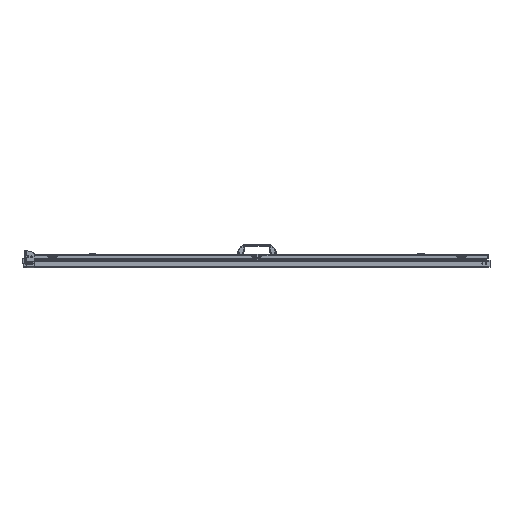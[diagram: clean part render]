
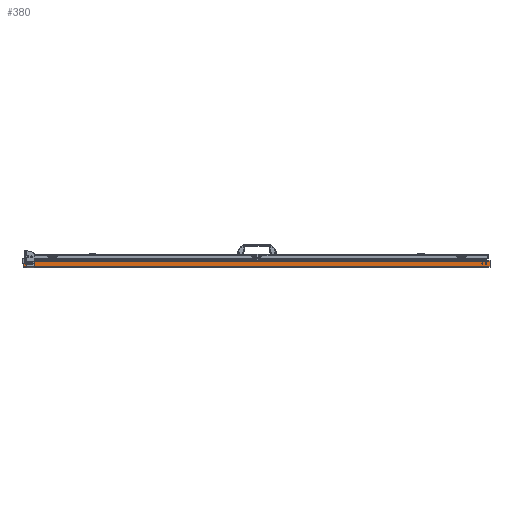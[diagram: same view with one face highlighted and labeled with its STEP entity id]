
A CAD part, left-side view. The second image highlights one B-rep face of the part: STEP entity #380.
In plain terms, the highlighted planar face has unit normal (-1, 0, 0).
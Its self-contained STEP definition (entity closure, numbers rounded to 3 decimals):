
#380 = ADVANCED_FACE ( 'NONE', ( #14498, #15004, #50199, #29986, #21992 ), #2870, .F. ) ;
#630 = VERTEX_POINT ( 'NONE', #20931 ) ;
#809 = CARTESIAN_POINT ( 'NONE',  ( -340., 837.5, -17.5 ) ) ;
#1355 = EDGE_CURVE ( 'NONE', #22676, #38129, #17362, .T. ) ;
#1404 = ORIENTED_EDGE ( 'NONE', *, *, #9661, .F. ) ;
#1927 = EDGE_CURVE ( 'NONE', #38129, #630, #14951, .T. ) ;
#2350 = DIRECTION ( 'NONE',  ( 1., 0., 0. ) ) ;
#2528 = CIRCLE ( 'NONE', #29727, 2. ) ;
#2870 = PLANE ( 'NONE',  #37588 ) ;
#3153 = EDGE_CURVE ( 'NONE', #38693, #19423, #23833, .T. ) ;
#4256 = EDGE_CURVE ( 'NONE', #35827, #630, #18606, .T. ) ;
#4268 = AXIS2_PLACEMENT_3D ( 'NONE', #23025, #14015, #26383 ) ;
#5005 = CARTESIAN_POINT ( 'NONE',  ( -340., 851., -17.5 ) ) ;
#5466 = CARTESIAN_POINT ( 'NONE',  ( -340., -837.5, -15.5 ) ) ;
#5548 = CARTESIAN_POINT ( 'NONE',  ( -340., 851., -19.5 ) ) ;
#6145 = ORIENTED_EDGE ( 'NONE', *, *, #16978, .F. ) ;
#6876 = AXIS2_PLACEMENT_3D ( 'NONE', #27506, #39452, #16160 ) ;
#7158 = ORIENTED_EDGE ( 'NONE', *, *, #4256, .F. ) ;
#7172 = VERTEX_POINT ( 'NONE', #40785 ) ;
#7344 = ORIENTED_EDGE ( 'NONE', *, *, #25169, .F. ) ;
#8038 = ORIENTED_EDGE ( 'NONE', *, *, #14799, .F. ) ;
#8107 = DIRECTION ( 'NONE',  ( 0., 0., 1. ) ) ;
#9661 = EDGE_CURVE ( 'NONE', #23444, #33205, #13491, .T. ) ;
#9821 = EDGE_LOOP ( 'NONE', ( #7158, #13340, #11015, #19779 ) ) ;
#9993 = CARTESIAN_POINT ( 'NONE',  ( -340., -851., -15.5 ) ) ;
#10055 = CARTESIAN_POINT ( 'NONE',  ( -340., -866., -28. ) ) ;
#11015 = ORIENTED_EDGE ( 'NONE', *, *, #1355, .T. ) ;
#12416 = EDGE_LOOP ( 'NONE', ( #20089, #22808 ) ) ;
#12525 = CIRCLE ( 'NONE', #31515, 2. ) ;
#12759 = CARTESIAN_POINT ( 'NONE',  ( -340., -837.5, -17.5 ) ) ;
#13340 = ORIENTED_EDGE ( 'NONE', *, *, #18260, .T. ) ;
#13491 = CIRCLE ( 'NONE', #6876, 2. ) ;
#13993 = CARTESIAN_POINT ( 'NONE',  ( -340., -866., -31.5 ) ) ;
#13998 = DIRECTION ( 'NONE',  ( 0., 0., 1. ) ) ;
#14015 = DIRECTION ( 'NONE',  ( -1., 0., 0. ) ) ;
#14136 = VECTOR ( 'NONE', #36573, 1000. ) ;
#14376 = CARTESIAN_POINT ( 'NONE',  ( -340., -851., -17.5 ) ) ;
#14498 = FACE_BOUND ( 'NONE', #33586, .T. ) ;
#14621 = DIRECTION ( 'NONE',  ( -1., 0., 0. ) ) ;
#14724 = DIRECTION ( 'NONE',  ( 0., 0., 1. ) ) ;
#14799 = EDGE_CURVE ( 'NONE', #44767, #44571, #49190, .T. ) ;
#14951 = LINE ( 'NONE', #41888, #40197 ) ;
#15004 = FACE_BOUND ( 'NONE', #15688, .T. ) ;
#15688 = EDGE_LOOP ( 'NONE', ( #6145, #42567 ) ) ;
#16160 = DIRECTION ( 'NONE',  ( 0., 0., -1. ) ) ;
#16704 = ORIENTED_EDGE ( 'NONE', *, *, #50480, .F. ) ;
#16978 = EDGE_CURVE ( 'NONE', #32278, #7172, #28532, .T. ) ;
#17362 = LINE ( 'NONE', #13993, #43490 ) ;
#17499 = CARTESIAN_POINT ( 'NONE',  ( -340., -851., -17.5 ) ) ;
#18235 = DIRECTION ( 'NONE',  ( 0., 0., 1. ) ) ;
#18260 = EDGE_CURVE ( 'NONE', #35827, #22676, #24647, .T. ) ;
#18606 = LINE ( 'NONE', #42168, #48622 ) ;
#18625 = CARTESIAN_POINT ( 'NONE',  ( -340., -866., -31.5 ) ) ;
#19423 = VERTEX_POINT ( 'NONE', #35301 ) ;
#19779 = ORIENTED_EDGE ( 'NONE', *, *, #1927, .T. ) ;
#20089 = ORIENTED_EDGE ( 'NONE', *, *, #40214, .F. ) ;
#20521 = DIRECTION ( 'NONE',  ( -1., 0., 0. ) ) ;
#20931 = CARTESIAN_POINT ( 'NONE',  ( -340., 866., -8.5 ) ) ;
#21626 = DIRECTION ( 'NONE',  ( 0., 0., 1. ) ) ;
#21992 = FACE_OUTER_BOUND ( 'NONE', #9821, .T. ) ;
#22475 = EDGE_LOOP ( 'NONE', ( #7344, #1404 ) ) ;
#22676 = VERTEX_POINT ( 'NONE', #10055 ) ;
#22808 = ORIENTED_EDGE ( 'NONE', *, *, #3153, .F. ) ;
#23025 = CARTESIAN_POINT ( 'NONE',  ( -340., 837.5, -17.5 ) ) ;
#23444 = VERTEX_POINT ( 'NONE', #5548 ) ;
#23833 = CIRCLE ( 'NONE', #43730, 2. ) ;
#24647 = LINE ( 'NONE', #24900, #14136 ) ;
#24900 = CARTESIAN_POINT ( 'NONE',  ( -340., -866., -28. ) ) ;
#25169 = EDGE_CURVE ( 'NONE', #33205, #23444, #12525, .T. ) ;
#26114 = CARTESIAN_POINT ( 'NONE',  ( -340., -837.5, -17.5 ) ) ;
#26383 = DIRECTION ( 'NONE',  ( 0., 0., -1. ) ) ;
#26733 = CARTESIAN_POINT ( 'NONE',  ( -340., -866., -8.5 ) ) ;
#27506 = CARTESIAN_POINT ( 'NONE',  ( -340., 851., -17.5 ) ) ;
#27919 = AXIS2_PLACEMENT_3D ( 'NONE', #14376, #14621, #18235 ) ;
#28532 = CIRCLE ( 'NONE', #40983, 2. ) ;
#29476 = DIRECTION ( 'NONE',  ( 0., 0., 1. ) ) ;
#29727 = AXIS2_PLACEMENT_3D ( 'NONE', #26114, #49701, #13998 ) ;
#29986 = FACE_BOUND ( 'NONE', #22475, .T. ) ;
#30844 = CARTESIAN_POINT ( 'NONE',  ( -340., 866., -28. ) ) ;
#31515 = AXIS2_PLACEMENT_3D ( 'NONE', #5005, #20521, #36299 ) ;
#32278 = VERTEX_POINT ( 'NONE', #5466 ) ;
#32830 = DIRECTION ( 'NONE',  ( 0., 0., -1. ) ) ;
#33205 = VERTEX_POINT ( 'NONE', #44651 ) ;
#33586 = EDGE_LOOP ( 'NONE', ( #16704, #8038 ) ) ;
#34901 = DIRECTION ( 'NONE',  ( 0., 0., -1. ) ) ;
#35301 = CARTESIAN_POINT ( 'NONE',  ( -340., 837.5, -15.5 ) ) ;
#35774 = DIRECTION ( 'NONE',  ( -1., 0., 0. ) ) ;
#35827 = VERTEX_POINT ( 'NONE', #30844 ) ;
#36299 = DIRECTION ( 'NONE',  ( 0., 0., -1. ) ) ;
#36573 = DIRECTION ( 'NONE',  ( 0., -1., 0. ) ) ;
#37588 = AXIS2_PLACEMENT_3D ( 'NONE', #18625, #2350, #34901 ) ;
#37601 = AXIS2_PLACEMENT_3D ( 'NONE', #17499, #44963, #21626 ) ;
#38116 = CIRCLE ( 'NONE', #4268, 2. ) ;
#38129 = VERTEX_POINT ( 'NONE', #26733 ) ;
#38693 = VERTEX_POINT ( 'NONE', #43560 ) ;
#39415 = CIRCLE ( 'NONE', #27919, 2. ) ;
#39452 = DIRECTION ( 'NONE',  ( -1., 0., 0. ) ) ;
#40197 = VECTOR ( 'NONE', #42141, 1000. ) ;
#40214 = EDGE_CURVE ( 'NONE', #19423, #38693, #38116, .T. ) ;
#40637 = DIRECTION ( 'NONE',  ( -1., 0., 0. ) ) ;
#40785 = CARTESIAN_POINT ( 'NONE',  ( -340., -837.5, -19.5 ) ) ;
#40983 = AXIS2_PLACEMENT_3D ( 'NONE', #12759, #35774, #8107 ) ;
#41888 = CARTESIAN_POINT ( 'NONE',  ( -340., 866., -8.5 ) ) ;
#42141 = DIRECTION ( 'NONE',  ( 0., 1., 0. ) ) ;
#42168 = CARTESIAN_POINT ( 'NONE',  ( -340., 866., -31.5 ) ) ;
#42567 = ORIENTED_EDGE ( 'NONE', *, *, #43788, .F. ) ;
#43490 = VECTOR ( 'NONE', #29476, 1000. ) ;
#43560 = CARTESIAN_POINT ( 'NONE',  ( -340., 837.5, -19.5 ) ) ;
#43730 = AXIS2_PLACEMENT_3D ( 'NONE', #809, #40637, #32830 ) ;
#43788 = EDGE_CURVE ( 'NONE', #7172, #32278, #2528, .T. ) ;
#44571 = VERTEX_POINT ( 'NONE', #9993 ) ;
#44651 = CARTESIAN_POINT ( 'NONE',  ( -340., 851., -15.5 ) ) ;
#44767 = VERTEX_POINT ( 'NONE', #51099 ) ;
#44963 = DIRECTION ( 'NONE',  ( -1., 0., 0. ) ) ;
#48622 = VECTOR ( 'NONE', #14724, 1000. ) ;
#49190 = CIRCLE ( 'NONE', #37601, 2. ) ;
#49701 = DIRECTION ( 'NONE',  ( -1., 0., 0. ) ) ;
#50199 = FACE_BOUND ( 'NONE', #12416, .T. ) ;
#50480 = EDGE_CURVE ( 'NONE', #44571, #44767, #39415, .T. ) ;
#51099 = CARTESIAN_POINT ( 'NONE',  ( -340., -851., -19.5 ) ) ;
